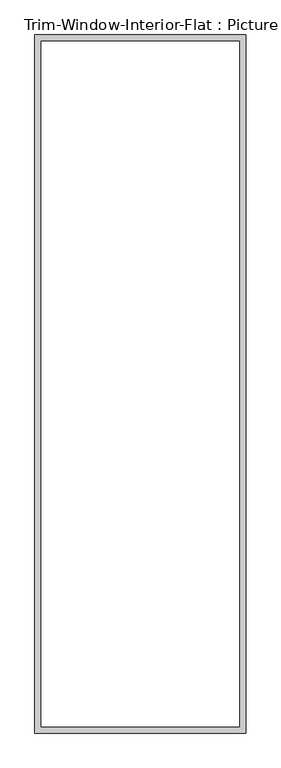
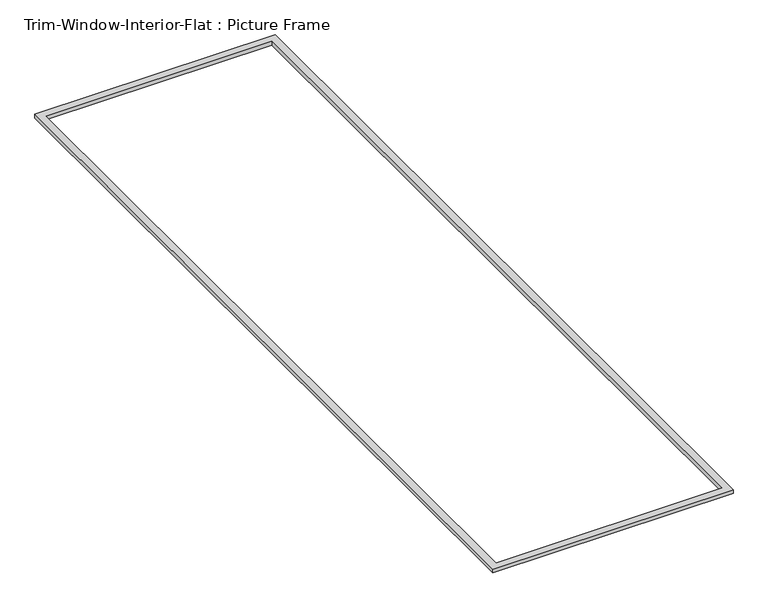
"""IFC4 building model written with IfcOpenShell, lengths in millimetres: proxy geometry, Trim-Window-Interior-Flat : Picture Frame."""

from ifc_helpers import new_model, si_unit, origin, origin_with_axes, place, context, project, spatial, polyline, outline, extrude, source, transform, mapped, element, save


def trim_window_interior_flat_picture_frame_4e25f6c2(model_context):
    return source(origin(), model_context, "Body", "SweptSolid", [
        extrude(outline(polyline([(958.85, 44.45), (958.85, -6292.85), (-958.85, -6292.85), (-958.85, 44.45), (958.85, 44.45)]), holes=[polyline([(901.7, -12.7), (-901.7, -12.7), (-901.7, -6235.7), (901.7, -6235.7), (901.7, -12.7)])]), origin_with_axes(), (0.0, 0.0, 1.0), 31.75),
    ])


if __name__ == "__main__":
    model = new_model("IFC4")
    model_context = context("Model", 3, world=origin())
    ifc_project = project(units=[si_unit("LENGTHUNIT", "METRE", prefix="MILLI")], contexts=[model_context])
    site = spatial("IfcSite", under=ifc_project)
    building = spatial("IfcBuilding", under=site)
    placement = place(None, origin())
    trim_window_interior_flat_picture_frame_shape = trim_window_interior_flat_picture_frame_4e25f6c2(model_context)
    element("IfcBuildingElementProxy", 1, Name="Trim-Window-Interior-Flat : Picture Frame", ObjectType="Trim-Window-Interior-Flat : Picture Frame", at=placement, inside=building, context=model_context, shape_type="MappedRepresentation", body=[
        mapped(trim_window_interior_flat_picture_frame_shape, transform((0.0, 0.0, 0.0), x_axis=(1.0, 0.0, 0.0), y_axis=(0.0, 1.0, 0.0), z_axis=(0.0, 0.0, 1.0))),
    ])
    save(model, "model.ifc")
